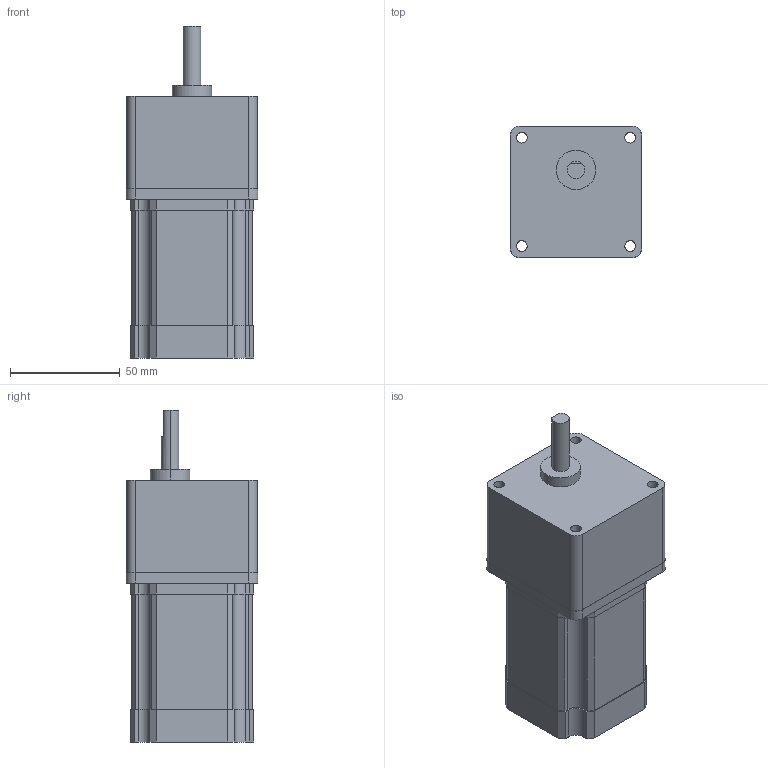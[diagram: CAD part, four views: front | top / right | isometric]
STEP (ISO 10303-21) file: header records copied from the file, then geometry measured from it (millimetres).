
FILE_DESCRIPTION (( 'STEP AP214' ), '1' );
FILE_NAME ('EXMK268-02GA-20K.STEP', '2016-09-09T03:54:52', ( 'hoho' ), ( '' ), 'SwSTEP 2.0', 'SolidWorks 2013', '' );
FILE_SCHEMA (( 'AUTOMOTIVE_DESIGN' ));
Length unit declared in the file: millimetre
Products named in the file (1): EXMK268-02GA-20K
Bounding box: 60 x 60 x 151.5 mm (x, y, z)
Volume: 368031.2 mm3; surface area: 36789.6 mm2
Topology: 1 solids, 1 shells, 110 faces, 306 edges, 204 vertices
Faces by surface type: plane 78, cylinder 32
Entity records: 3929 total; most frequent: CARTESIAN_POINT 621, ORIENTED_EDGE 612, DIRECTION 594, EDGE_CURVE 306, VECTOR 240, LINE 240, VERTEX_POINT 204, AXIS2_PLACEMENT_3D 177
